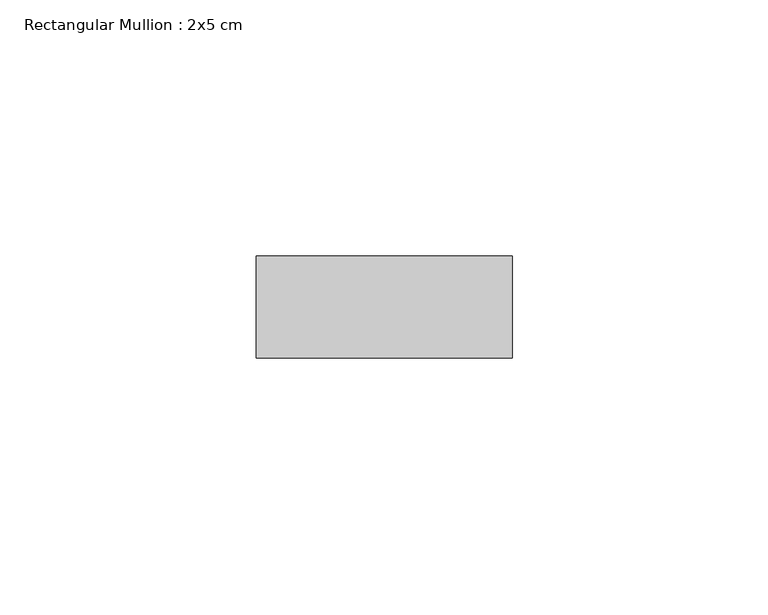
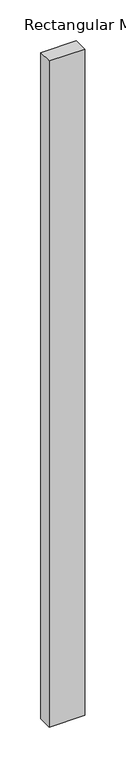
"""IFC4 building model written with IfcOpenShell, lengths in millimetres: member geometry, Rectangular Mullion : 2x5 cm."""

import ifcopenshell
import ifcopenshell.guid

model = None  # the IFC model being written
_history = None  # IfcOwnerHistory: only IFC2X3 demands one
_inside = {}  # id of a spatial element -> (the spatial element, [elements in it])
_under = {}  # id of a project, library or spatial element -> (it, [spatial elements below it])
_declared = {}  # id of a project -> (the project, [libraries it declares])
_typed = {}  # id of a type object -> (the type object, [elements of that type])
_made_of = {}  # id of a material, layer set ... -> (it, [elements and type objects made of it])


def new_model(schema):
    """Start an empty IFC model of exactly this schema.

    Asked for "IFC4X3", IfcOpenShell would pick the latest addendum, in which some entities
    have other attributes; the version numbers below select the first issue.
    IFC2X3 requires an IfcOwnerHistory on every rooted entity: one is made here for all.
    """
    global model, _history
    if schema == "IFC4X3":
        model = ifcopenshell.file(schema_version=(4, 3, 0, 0))
    else:
        model = ifcopenshell.file(schema=schema)
    _inside.clear()
    _under.clear()
    _declared.clear()
    _typed.clear()
    _made_of.clear()
    _history = None
    if model.schema == "IFC2X3":
        org = make("IfcOrganization", Name="unknown")
        user = make(
            "IfcPersonAndOrganization",
            ThePerson=make("IfcPerson", FamilyName="unknown"),
            TheOrganization=org,
        )
        app = make(
            "IfcApplication",
            ApplicationDeveloper=org,
            Version="unknown",
            ApplicationFullName="unknown",
            ApplicationIdentifier="unknown",
        )
        _history = make(
            "IfcOwnerHistory",
            OwningUser=user,
            OwningApplication=app,
            ChangeAction="ADDED",
            CreationDate=0,
        )
    return model


def make(cls, **values):
    """One entity of the class cls with the attributes given. An attribute that is None is left unset."""
    return model.create_entity(
        cls, **{name: value for name, value in values.items() if value is not None}
    )


def rooted(cls, **values):
    """An entity with a GlobalId (a new one), such as an element, a storey or a relation."""
    return make(cls, GlobalId=ifcopenshell.guid.new(), OwnerHistory=_history, **values)


def si_unit(unit_type, name, prefix=None):
    """IfcSIUnit, for example si_unit("LENGTHUNIT", "METRE", prefix="MILLI")."""
    return make("IfcSIUnit", UnitType=unit_type, Prefix=prefix, Name=name)


def assignment(units):
    """IfcUnitAssignment: the units of a project."""
    return None if units is None else make("IfcUnitAssignment", Units=units)


def point(xyz):
    """IfcCartesianPoint."""
    return None if xyz is None else make("IfcCartesianPoint", Coordinates=xyz)


def direction(xyz):
    """IfcDirection."""
    return None if xyz is None else make("IfcDirection", DirectionRatios=xyz)


def frame(location, z_axis=None, x_axis=None):
    """IfcAxis2Placement3D, a coordinate frame: its origin and axes. An axis left out is left unset."""
    return make(
        "IfcAxis2Placement3D",
        Location=point(location),
        Axis=direction(z_axis),
        RefDirection=direction(x_axis),
    )


def origin():
    """The frame at (0, 0, 0) with its axes left unset."""
    return frame((0.0, 0.0, 0.0))


def place(relative_to, where):
    """IfcLocalPlacement: puts the frame where relative to a parent placement (None: the world)."""
    return make(
        "IfcLocalPlacement", PlacementRelTo=relative_to, RelativePlacement=where
    )


def context(
    kind, dimensions, precision=None, world=None, true_north=None, identifier=None
):
    """IfcGeometricRepresentationContext, for example the 3D "Model" context."""
    return make(
        "IfcGeometricRepresentationContext",
        ContextIdentifier=identifier,
        ContextType=kind,
        CoordinateSpaceDimension=dimensions,
        Precision=precision,
        WorldCoordinateSystem=world,
        TrueNorth=true_north,
    )


def project(units=None, contexts=None):
    """IfcProject with its units and contexts."""
    return rooted(
        "IfcProject",
        Name="project",
        RepresentationContexts=contexts,
        UnitsInContext=assignment(units),
    )


def spatial(cls, under=None, at=None, **own):
    """A site, building, storey or space (cls), placed at a placement, below another one or the project."""
    s = rooted(cls, ObjectPlacement=at, **own)
    if under is not None:
        _under.setdefault(under.id(), (under, []))[1].append(s)
    return s


def polyline(points):
    """IfcPolyline through the points."""
    return make("IfcPolyline", Points=[point(p) for p in points])


def outline(outer, holes=None, kind="AREA"):
    """IfcArbitraryClosedProfileDef: a profile drawn as a closed curve; with holes, ...WithVoids."""
    if holes is None:
        return make("IfcArbitraryClosedProfileDef", ProfileType=kind, OuterCurve=outer)
    return make(
        "IfcArbitraryProfileDefWithVoids",
        ProfileType=kind,
        OuterCurve=outer,
        InnerCurves=holes,
    )


def extrude(swept, where, along, depth):
    """IfcExtrudedAreaSolid: the profile swept, set in the frame where, extruded along a direction by depth."""
    return make(
        "IfcExtrudedAreaSolid",
        SweptArea=swept,
        Position=where,
        ExtrudedDirection=direction(along),
        Depth=depth,
    )


def shape(context_of_items, identifier, shape_type, items):
    """IfcShapeRepresentation: the items that make up one representation, for example the "Body"."""
    return make(
        "IfcShapeRepresentation",
        ContextOfItems=context_of_items,
        RepresentationIdentifier=identifier,
        RepresentationType=shape_type,
        Items=items,
    )


def source(mapping_origin, context_of_items, identifier, shape_type, items):
    """IfcRepresentationMap: a shape defined once, which mapped items show again and again."""
    return make(
        "IfcRepresentationMap",
        MappingOrigin=mapping_origin,
        MappedRepresentation=shape(context_of_items, identifier, shape_type, items),
    )


def transform(
    local_origin,
    x_axis=None,
    y_axis=None,
    z_axis=None,
    scale=None,
    scale2=None,
    scale3=None,
    uniform=True,
):
    """IfcCartesianTransformationOperator3D, or its non-uniform kind. x_axis, y_axis, z_axis: its Axis1, 2, 3."""
    if uniform:
        return make(
            "IfcCartesianTransformationOperator3D",
            Axis1=direction(x_axis),
            Axis2=direction(y_axis),
            LocalOrigin=point(local_origin),
            Scale=scale,
            Axis3=direction(z_axis),
        )
    return make(
        "IfcCartesianTransformationOperator3DnonUniform",
        Axis1=direction(x_axis),
        Axis2=direction(y_axis),
        LocalOrigin=point(local_origin),
        Scale=scale,
        Axis3=direction(z_axis),
        Scale2=scale2,
        Scale3=scale3,
    )


def mapped(mapping_source, mapping_target):
    """IfcMappedItem: shows the shape of a source again, moved by a transform."""
    return make(
        "IfcMappedItem", MappingSource=mapping_source, MappingTarget=mapping_target
    )


def made_of(thing, what):
    """Note that an element or type object is made of a material, layer set ...; save() writes the relation."""
    if what is not None:
        _made_of.setdefault(what.id(), (what, []))[1].append(thing)
    return thing


def element(
    cls,
    number,
    at=None,
    inside=None,
    cuts=None,
    type_object=None,
    material=None,
    context=None,
    identifier="Body",
    shape_type=None,
    held_by="IfcProductDefinitionShape",
    body=None,
    shapes=None,
    **own,
):
    """One element of the class cls, such as IfcWall. Its Tag is "e" and its number.

    at: its placement. inside: the storey or other place that contains it. cuts: it is an
    opening in that element (IfcRelVoidsElement). A single representation is given by context,
    identifier, shape_type and body (its items); several are given by shapes. held_by: the class
    of the entity that holds the representations. save() writes the other relations.
    """
    e = rooted(cls, Tag="e%d" % number, ObjectPlacement=at, **own)
    if body is not None:
        shapes = [shape(context, identifier, shape_type, body)]
    if shapes is not None:
        e.Representation = make(held_by, Representations=shapes)
    if inside is not None:
        _inside.setdefault(inside.id(), (inside, []))[1].append(e)
    if cuts is not None:
        rooted(
            "IfcRelVoidsElement", RelatingBuildingElement=cuts, RelatedOpeningElement=e
        )
    if type_object is not None:
        _typed.setdefault(type_object.id(), (type_object, []))[1].append(e)
    return made_of(e, material)


def aggregate(whole, parts):
    """IfcRelAggregates: a whole, such as a stair, and the parts it consists of."""
    return rooted("IfcRelAggregates", RelatingObject=whole, RelatedObjects=parts)


def save(model, path):
    """Write the relations noted so far, then the file.

    IfcRelAggregates (storeys below a building ...), IfcRelContainedInSpatialStructure (elements
    in a storey), IfcRelDefinesByType, IfcRelAssociatesMaterial and IfcRelDeclares: one each for
    every whole, place, type object, material and project.
    """
    for whole, parts in _under.values():
        aggregate(whole, parts)
    for where, things in _inside.values():
        rooted(
            "IfcRelContainedInSpatialStructure",
            RelatedElements=things,
            RelatingStructure=where,
        )
    for kind, things in _typed.values():
        rooted("IfcRelDefinesByType", RelatedObjects=things, RelatingType=kind)
    for what, things in _made_of.values():
        rooted("IfcRelAssociatesMaterial", RelatedObjects=things, RelatingMaterial=what)
    for by, libraries in _declared.values():
        rooted("IfcRelDeclares", RelatingContext=by, RelatedDefinitions=libraries)
    model.write(path)


def rectangular_mullion_2x5_cm_3fc9bbf4(model_context):
    return source(origin(), model_context, "Body", "SweptSolid", [
        extrude(outline(polyline([(50.0, 20.0), (50.0, 0.0), (0.0, 0.0), (0.0, 20.0), (50.0, 20.0)])), frame((0.0, 0.0, -993.3727206), z_axis=(0.0, 0.0, 1.0), x_axis=(1.0, 0.0, 0.0)), (0.0, 0.0, 1.0), 993.3727206),
    ])


if __name__ == "__main__":
    model = new_model("IFC4")
    model_context = context("Model", 3, world=origin())
    ifc_project = project(units=[si_unit("LENGTHUNIT", "METRE", prefix="MILLI")], contexts=[model_context])
    site = spatial("IfcSite", under=ifc_project)
    building = spatial("IfcBuilding", under=site)
    placement = place(None, origin())
    rectangular_mullion_2x5_cm_shape = rectangular_mullion_2x5_cm_3fc9bbf4(model_context)
    element("IfcMember", 1, ObjectType="Rectangular Mullion : 2x5 cm", at=placement, inside=building, context=model_context, shape_type="MappedRepresentation", body=[
        mapped(rectangular_mullion_2x5_cm_shape, transform((0.0, 0.0, 0.0), x_axis=(1.0, 0.0, 0.0), y_axis=(0.0, 1.0, 0.0), z_axis=(0.0, 0.0, 1.0))),
    ])
    save(model, "model.ifc")
